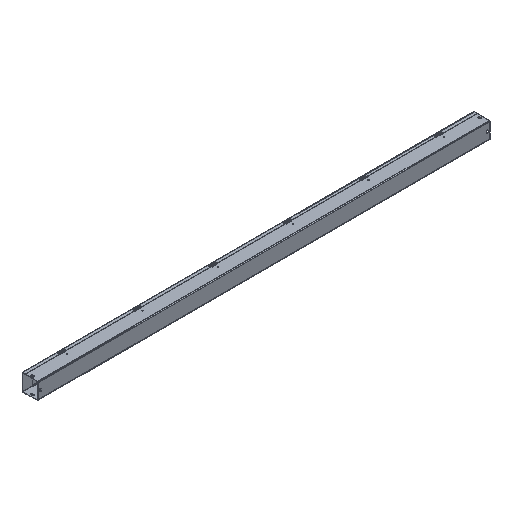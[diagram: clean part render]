
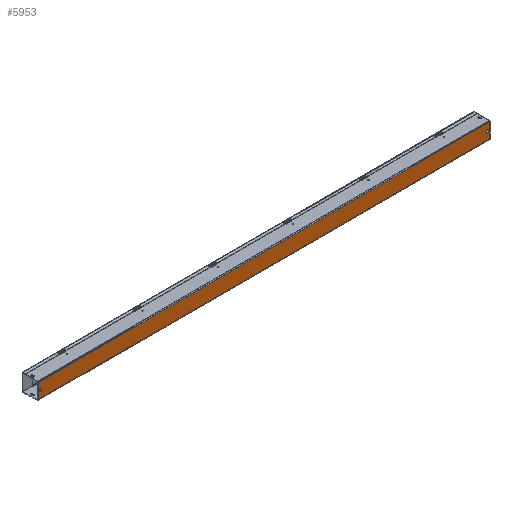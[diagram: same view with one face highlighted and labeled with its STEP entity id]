
A CAD part, isometric view. The second image highlights one B-rep face of the part: STEP entity #5953.
In plain terms, the highlighted planar face has unit normal (0, -1, 0).
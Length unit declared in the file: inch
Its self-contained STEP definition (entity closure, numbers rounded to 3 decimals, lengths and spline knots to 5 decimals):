
#88 = FACE_OUTER_BOUND ( 'NONE', #1997, .T. ) ;
#313 = CARTESIAN_POINT ( 'NONE',  ( 36., 0., 1.325 ) ) ;
#320 = DIRECTION ( 'NONE',  ( 0., 0., -1. ) ) ;
#422 = EDGE_CURVE ( 'NONE', #3963, #8429, #4032, .T. ) ;
#425 = CARTESIAN_POINT ( 'NONE',  ( -35.5, 0., -0.09375 ) ) ;
#469 = DIRECTION ( 'NONE',  ( 0., 1., 0. ) ) ;
#588 = EDGE_CURVE ( 'NONE', #754, #5986, #2993, .T. ) ;
#626 = LINE ( 'NONE', #1438, #5282 ) ;
#732 = AXIS2_PLACEMENT_3D ( 'NONE', #7014, #8394, #1284 ) ;
#752 = FACE_BOUND ( 'NONE', #7922, .T. ) ;
#754 = VERTEX_POINT ( 'NONE', #8667 ) ;
#818 = EDGE_CURVE ( 'NONE', #5986, #985, #8990, .T. ) ;
#943 = CARTESIAN_POINT ( 'NONE',  ( 35.625, 0., 0.09375 ) ) ;
#976 = ORIENTED_EDGE ( 'NONE', *, *, #6212, .T. ) ;
#985 = VERTEX_POINT ( 'NONE', #425 ) ;
#988 = EDGE_CURVE ( 'NONE', #2148, #754, #6173, .T. ) ;
#1051 = EDGE_CURVE ( 'NONE', #8429, #7757, #9053, .T. ) ;
#1153 = AXIS2_PLACEMENT_3D ( 'NONE', #943, #6778, #8197 ) ;
#1200 = AXIS2_PLACEMENT_3D ( 'NONE', #1314, #5488, #7806 ) ;
#1268 = CARTESIAN_POINT ( 'NONE',  ( 35.625, 0., 0.09375 ) ) ;
#1284 = DIRECTION ( 'NONE',  ( 0., 0., 1. ) ) ;
#1314 = CARTESIAN_POINT ( 'NONE',  ( -35.625, 0., 0.09375 ) ) ;
#1369 = DIRECTION ( 'NONE',  ( 0., 1., 0. ) ) ;
#1408 = VERTEX_POINT ( 'NONE', #4964 ) ;
#1438 = CARTESIAN_POINT ( 'NONE',  ( -35.75, 0., 0.09375 ) ) ;
#1470 = FACE_BOUND ( 'NONE', #7233, .T. ) ;
#1700 = VECTOR ( 'NONE', #8640, 39.37008 ) ;
#1764 = ORIENTED_EDGE ( 'NONE', *, *, #1051, .T. ) ;
#1864 = VECTOR ( 'NONE', #7650, 39.37008 ) ;
#1917 = VECTOR ( 'NONE', #4443, 39.37008 ) ;
#1997 = EDGE_LOOP ( 'NONE', ( #5556, #2004, #976, #5429 ) ) ;
#2004 = ORIENTED_EDGE ( 'NONE', *, *, #6831, .F. ) ;
#2148 = VERTEX_POINT ( 'NONE', #2847 ) ;
#2336 = VERTEX_POINT ( 'NONE', #2935 ) ;
#2476 = VECTOR ( 'NONE', #3397, 39.37008 ) ;
#2490 = ORIENTED_EDGE ( 'NONE', *, *, #8806, .T. ) ;
#2497 = CARTESIAN_POINT ( 'NONE',  ( -35.5, 0., 0.09375 ) ) ;
#2847 = CARTESIAN_POINT ( 'NONE',  ( -35.75, 0., 0.09375 ) ) ;
#2857 = CARTESIAN_POINT ( 'NONE',  ( 35.5, 0., -0.09375 ) ) ;
#2864 = VERTEX_POINT ( 'NONE', #3250 ) ;
#2935 = CARTESIAN_POINT ( 'NONE',  ( 35.75, 0., -0.09375 ) ) ;
#2963 = VERTEX_POINT ( 'NONE', #6946 ) ;
#2993 = CIRCLE ( 'NONE', #732, 0.125 ) ;
#3240 = LINE ( 'NONE', #4766, #1864 ) ;
#3246 = ORIENTED_EDGE ( 'NONE', *, *, #3993, .T. ) ;
#3250 = CARTESIAN_POINT ( 'NONE',  ( -35.75, 0., -0.09375 ) ) ;
#3391 = AXIS2_PLACEMENT_3D ( 'NONE', #6442, #7906, #5015 ) ;
#3397 = DIRECTION ( 'NONE',  ( 0., 0., 1. ) ) ;
#3505 = CARTESIAN_POINT ( 'NONE',  ( 35.625, 0., -0.09375 ) ) ;
#3622 = CARTESIAN_POINT ( 'NONE',  ( 36., 0., -1.19 ) ) ;
#3642 = PLANE ( 'NONE',  #3391 ) ;
#3744 = DIRECTION ( 'NONE',  ( 0., 0., 1. ) ) ;
#3963 = VERTEX_POINT ( 'NONE', #2857 ) ;
#3993 = EDGE_CURVE ( 'NONE', #2864, #2148, #626, .T. ) ;
#4016 = CIRCLE ( 'NONE', #5525, 0.125 ) ;
#4032 = LINE ( 'NONE', #8953, #5231 ) ;
#4291 = CARTESIAN_POINT ( 'NONE',  ( -36., 0., 1.19 ) ) ;
#4299 = DIRECTION ( 'NONE',  ( 0., 0., -1. ) ) ;
#4443 = DIRECTION ( 'NONE',  ( 0., 0., -1. ) ) ;
#4503 = VECTOR ( 'NONE', #320, 39.37008 ) ;
#4587 = EDGE_CURVE ( 'NONE', #1408, #2336, #5864, .T. ) ;
#4591 = CIRCLE ( 'NONE', #7929, 0.125 ) ;
#4623 = CARTESIAN_POINT ( 'NONE',  ( 36., 0., 1.19 ) ) ;
#4706 = ORIENTED_EDGE ( 'NONE', *, *, #4587, .T. ) ;
#4766 = CARTESIAN_POINT ( 'NONE',  ( -36., 0., 1.325 ) ) ;
#4829 = ORIENTED_EDGE ( 'NONE', *, *, #8717, .T. ) ;
#4857 = ORIENTED_EDGE ( 'NONE', *, *, #422, .T. ) ;
#4964 = CARTESIAN_POINT ( 'NONE',  ( 35.75, 0., 0.09375 ) ) ;
#4965 = AXIS2_PLACEMENT_3D ( 'NONE', #1268, #469, #5577 ) ;
#5013 = VERTEX_POINT ( 'NONE', #4291 ) ;
#5015 = DIRECTION ( 'NONE',  ( 0., 0., -1. ) ) ;
#5194 = VECTOR ( 'NONE', #5200, 39.37008 ) ;
#5200 = DIRECTION ( 'NONE',  ( -1., 0., 0. ) ) ;
#5231 = VECTOR ( 'NONE', #6206, 39.37008 ) ;
#5282 = VECTOR ( 'NONE', #6507, 39.37008 ) ;
#5429 = ORIENTED_EDGE ( 'NONE', *, *, #7985, .T. ) ;
#5488 = DIRECTION ( 'NONE',  ( 0., 1., 0. ) ) ;
#5520 = VERTEX_POINT ( 'NONE', #5782 ) ;
#5525 = AXIS2_PLACEMENT_3D ( 'NONE', #7219, #7923, #3744 ) ;
#5537 = ORIENTED_EDGE ( 'NONE', *, *, #6023, .T. ) ;
#5556 = ORIENTED_EDGE ( 'NONE', *, *, #6684, .F. ) ;
#5577 = DIRECTION ( 'NONE',  ( 0., 0., -1. ) ) ;
#5782 = CARTESIAN_POINT ( 'NONE',  ( 36., 0., -1.19 ) ) ;
#5826 = CIRCLE ( 'NONE', #1153, 0.125 ) ;
#5864 = LINE ( 'NONE', #8850, #1917 ) ;
#5953 = ADVANCED_FACE ( 'NONE', ( #752, #1470, #88 ), #3642, .T. ) ;
#5986 = VERTEX_POINT ( 'NONE', #7955 ) ;
#6023 = EDGE_CURVE ( 'NONE', #2336, #3963, #4591, .T. ) ;
#6173 = CIRCLE ( 'NONE', #1200, 0.125 ) ;
#6206 = DIRECTION ( 'NONE',  ( 0., 0., 1. ) ) ;
#6212 = EDGE_CURVE ( 'NONE', #5520, #9118, #8374, .T. ) ;
#6227 = ORIENTED_EDGE ( 'NONE', *, *, #588, .T. ) ;
#6442 = CARTESIAN_POINT ( 'NONE',  ( 36., 0., 1.325 ) ) ;
#6507 = DIRECTION ( 'NONE',  ( 0., 0., 1. ) ) ;
#6684 = EDGE_CURVE ( 'NONE', #2963, #5013, #3240, .T. ) ;
#6764 = LINE ( 'NONE', #4623, #5194 ) ;
#6778 = DIRECTION ( 'NONE',  ( 0., 1., 0. ) ) ;
#6831 = EDGE_CURVE ( 'NONE', #5520, #2963, #7175, .T. ) ;
#6946 = CARTESIAN_POINT ( 'NONE',  ( -36., 0., -1.19 ) ) ;
#7014 = CARTESIAN_POINT ( 'NONE',  ( -35.625, 0., 0.09375 ) ) ;
#7129 = ORIENTED_EDGE ( 'NONE', *, *, #988, .T. ) ;
#7175 = LINE ( 'NONE', #3622, #1700 ) ;
#7219 = CARTESIAN_POINT ( 'NONE',  ( -35.625, 0., -0.09375 ) ) ;
#7233 = EDGE_LOOP ( 'NONE', ( #7129, #6227, #8471, #4829, #3246 ) ) ;
#7650 = DIRECTION ( 'NONE',  ( 0., 0., 1. ) ) ;
#7757 = VERTEX_POINT ( 'NONE', #7768 ) ;
#7768 = CARTESIAN_POINT ( 'NONE',  ( 35.625, 0., 0.21875 ) ) ;
#7806 = DIRECTION ( 'NONE',  ( 0., 0., 1. ) ) ;
#7906 = DIRECTION ( 'NONE',  ( 0., -1., 0. ) ) ;
#7922 = EDGE_LOOP ( 'NONE', ( #1764, #2490, #4706, #5537, #4857 ) ) ;
#7923 = DIRECTION ( 'NONE',  ( 0., 1., 0. ) ) ;
#7929 = AXIS2_PLACEMENT_3D ( 'NONE', #3505, #1369, #4299 ) ;
#7955 = CARTESIAN_POINT ( 'NONE',  ( -35.5, 0., 0.09375 ) ) ;
#7985 = EDGE_CURVE ( 'NONE', #9118, #5013, #6764, .T. ) ;
#8197 = DIRECTION ( 'NONE',  ( 0., 0., -1. ) ) ;
#8204 = CARTESIAN_POINT ( 'NONE',  ( 36., 0., 1.19 ) ) ;
#8374 = LINE ( 'NONE', #313, #2476 ) ;
#8394 = DIRECTION ( 'NONE',  ( 0., 1., 0. ) ) ;
#8429 = VERTEX_POINT ( 'NONE', #9109 ) ;
#8471 = ORIENTED_EDGE ( 'NONE', *, *, #818, .T. ) ;
#8640 = DIRECTION ( 'NONE',  ( -1., 0., 0. ) ) ;
#8667 = CARTESIAN_POINT ( 'NONE',  ( -35.625, 0., 0.21875 ) ) ;
#8717 = EDGE_CURVE ( 'NONE', #985, #2864, #4016, .T. ) ;
#8806 = EDGE_CURVE ( 'NONE', #7757, #1408, #5826, .T. ) ;
#8850 = CARTESIAN_POINT ( 'NONE',  ( 35.75, 0., 0.09375 ) ) ;
#8953 = CARTESIAN_POINT ( 'NONE',  ( 35.5, 0., 0.09375 ) ) ;
#8990 = LINE ( 'NONE', #2497, #4503 ) ;
#9053 = CIRCLE ( 'NONE', #4965, 0.125 ) ;
#9109 = CARTESIAN_POINT ( 'NONE',  ( 35.5, 0., 0.09375 ) ) ;
#9118 = VERTEX_POINT ( 'NONE', #8204 ) ;
